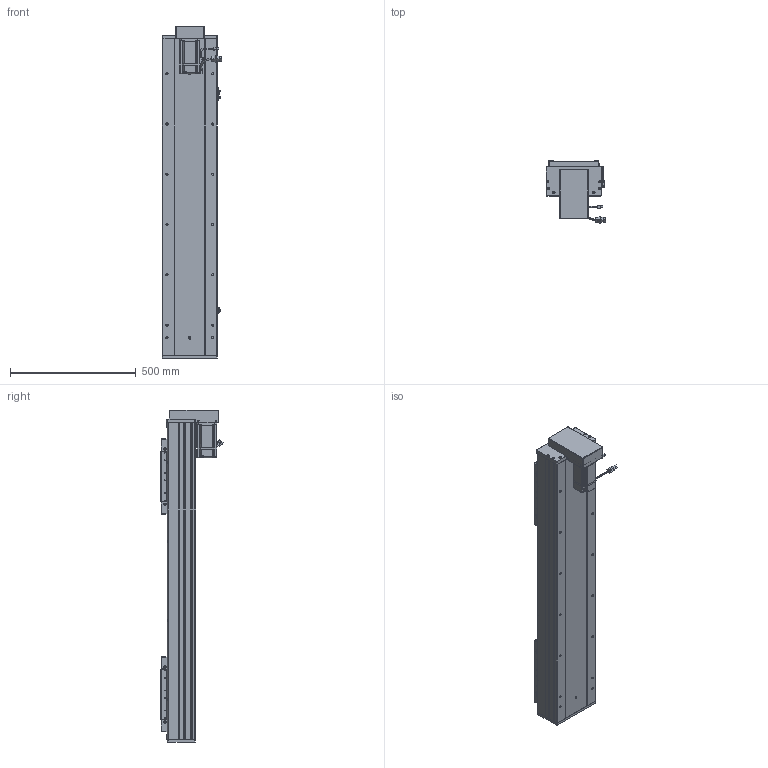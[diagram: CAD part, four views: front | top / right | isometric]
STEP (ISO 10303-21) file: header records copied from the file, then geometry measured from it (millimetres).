
FILE_DESCRIPTION (( 'STEP AP203' ), '1' );
FILE_NAME ('RY220F-L2525-300-BK.SLDASM_850.step', '2022-07-04T01:20:44', ( '' ), ( '' ), 'SwSTEP 2.0', 'SolidWorks 2016', '' );
FILE_SCHEMA (( 'CONFIG_CONTROL_DESIGN' ));
Length unit declared in the file: millimetre
Products named in the file (15): RY220F蛌殏菁釱-300_850; RY220狟殏萇儂欶; RY220F-蛌殏奻裔啣-300_850; RY220F-滅鳥奻裔; 覜茼ん672; RY220F-詩湍揤踡輸; 怢湛750W_ECMA-CX0807ES; 侐源滅袉蝶; RY220F綴裔啣; RY220F-672覜茼んえ; 滅袉蝶18-24; RY220F臏賑釱25-32佪裝; RY220F-L2525-300-BK.SLDASM_850; RY220狟殏萇儂假蚾啣; RY220F-祥凄詩湍-蛌殏-300_850
Assembly tree (24 placements, depth 2):
  RY220F-L2525-300-BK.SLDASM_850
    RY220F蛌殏菁釱-300_850
    RY220F-蛌殏奻裔啣-300_850  x2
    怢湛750W_ECMA-CX0807ES
    RY220F臏賑釱25-32佪裝  x2
    RY220F-滅鳥奻裔  x2
    滅袉蝶18-24  x3
    RY220F綴裔啣
    RY220F-祥凄詩湍-蛌殏-300_850
    RY220F-詩湍揤踡輸  x2
    覜茼ん672  x3
    RY220F-672覜茼んえ  x2
    侐源滅袉蝶  x2
    RY220狟殏萇儂假蚾啣
    RY220狟殏萇儂欶
Bounding box: 237.27 x 247.24 x 1321 mm (x, y, z)
Volume: 13430942.5 mm3; surface area: 3435565.4 mm2
Topology: 25 solids, 25 shells, 2731 faces, 7430 edges, 4607 vertices
Faces by surface type: cylinder 1210, plane 1062, cone 388, bspline 45, sphere 16, torus 10
Entity records: 67621 total; most frequent: CARTESIAN_POINT 18489, ORIENTED_EDGE 9954, DIRECTION 9605, EDGE_CURVE 4977, AXIS2_PLACEMENT_3D 3390, VERTEX_POINT 3223, LINE 2825, VECTOR 2825
